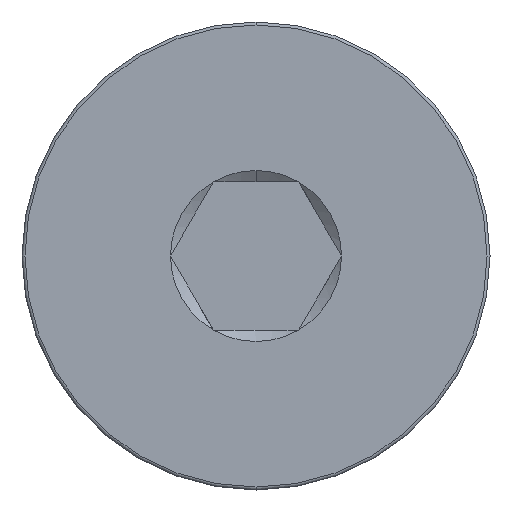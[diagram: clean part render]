
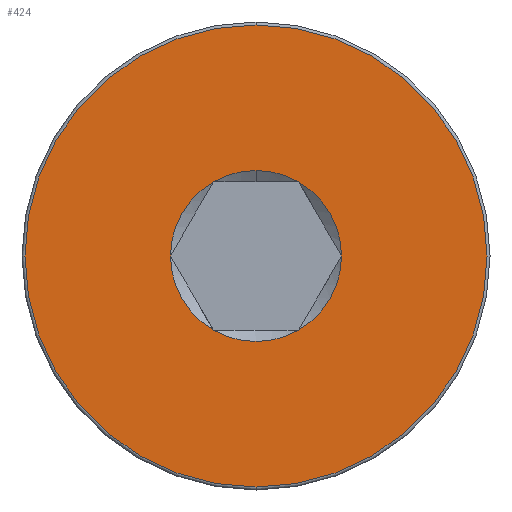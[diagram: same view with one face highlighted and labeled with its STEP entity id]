
A CAD part, left-side view. The second image highlights one B-rep face of the part: STEP entity #424.
In plain terms, the highlighted planar face has unit normal (-1, 0, 0).
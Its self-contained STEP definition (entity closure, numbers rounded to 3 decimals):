
#16 = DIRECTION ( 'NONE',  ( 0., 0., 1. ) ) ;
#33 = EDGE_CURVE ( 'NONE', #736, #753, #790, .T. ) ;
#35 = CARTESIAN_POINT ( 'NONE',  ( 0., 0., 0. ) ) ;
#45 = DIRECTION ( 'NONE',  ( 0., 0., -1. ) ) ;
#46 = CIRCLE ( 'NONE', #149, 2.887 ) ;
#47 = DIRECTION ( 'NONE',  ( 1., 0., 0. ) ) ;
#52 = VERTEX_POINT ( 'NONE', #670 ) ;
#53 = CARTESIAN_POINT ( 'NONE',  ( 0., 0., 7.8 ) ) ;
#57 = CIRCLE ( 'NONE', #510, 2.887 ) ;
#58 = EDGE_CURVE ( 'NONE', #52, #528, #246, .T. ) ;
#78 = ORIENTED_EDGE ( 'NONE', *, *, #173, .T. ) ;
#79 = CARTESIAN_POINT ( 'NONE',  ( 0., -1.443, 2.5 ) ) ;
#88 = CARTESIAN_POINT ( 'NONE',  ( 0., 0., 0. ) ) ;
#95 = CARTESIAN_POINT ( 'NONE',  ( 0., 0., 2.887 ) ) ;
#116 = CARTESIAN_POINT ( 'NONE',  ( 0., 0., 0. ) ) ;
#123 = ORIENTED_EDGE ( 'NONE', *, *, #388, .T. ) ;
#125 = CIRCLE ( 'NONE', #717, 2.887 ) ;
#141 = CARTESIAN_POINT ( 'NONE',  ( 0., -1.443, -2.5 ) ) ;
#149 = AXIS2_PLACEMENT_3D ( 'NONE', #357, #172, #45 ) ;
#150 = ORIENTED_EDGE ( 'NONE', *, *, #473, .T. ) ;
#171 = CARTESIAN_POINT ( 'NONE',  ( 0., -2.887, 0. ) ) ;
#172 = DIRECTION ( 'NONE',  ( 1., 0., 0. ) ) ;
#173 = EDGE_CURVE ( 'NONE', #753, #736, #625, .T. ) ;
#193 = VERTEX_POINT ( 'NONE', #171 ) ;
#201 = DIRECTION ( 'NONE',  ( 0., 0., -1. ) ) ;
#202 = ORIENTED_EDGE ( 'NONE', *, *, #684, .T. ) ;
#215 = VERTEX_POINT ( 'NONE', #430 ) ;
#219 = CARTESIAN_POINT ( 'NONE',  ( 0., 0., 0. ) ) ;
#221 = CIRCLE ( 'NONE', #316, 2.887 ) ;
#224 = CARTESIAN_POINT ( 'NONE',  ( 0., 0., 0. ) ) ;
#231 = DIRECTION ( 'NONE',  ( 1., 0., 0. ) ) ;
#238 = DIRECTION ( 'NONE',  ( 1., 0., 0. ) ) ;
#246 = CIRCLE ( 'NONE', #715, 2.887 ) ;
#249 = CARTESIAN_POINT ( 'NONE',  ( 0., 0., 0. ) ) ;
#273 = FACE_OUTER_BOUND ( 'NONE', #771, .T. ) ;
#283 = EDGE_CURVE ( 'NONE', #432, #52, #324, .T. ) ;
#316 = AXIS2_PLACEMENT_3D ( 'NONE', #364, #231, #671 ) ;
#321 = DIRECTION ( 'NONE',  ( 1., 0., 0. ) ) ;
#324 = CIRCLE ( 'NONE', #652, 2.887 ) ;
#325 = DIRECTION ( 'NONE',  ( 1., 0., 0. ) ) ;
#357 = CARTESIAN_POINT ( 'NONE',  ( 0., 0., 0. ) ) ;
#360 = VERTEX_POINT ( 'NONE', #95 ) ;
#364 = CARTESIAN_POINT ( 'NONE',  ( 0., 0., 0. ) ) ;
#388 = EDGE_CURVE ( 'NONE', #528, #215, #57, .T. ) ;
#393 = FACE_BOUND ( 'NONE', #395, .T. ) ;
#395 = EDGE_LOOP ( 'NONE', ( #123, #543, #150, #740, #202, #637, #799 ) ) ;
#401 = DIRECTION ( 'NONE',  ( 0., 0., 1. ) ) ;
#413 = DIRECTION ( 'NONE',  ( 0., 0., -1. ) ) ;
#424 = ADVANCED_FACE ( 'NONE', ( #393, #273 ), #572, .T. ) ;
#430 = CARTESIAN_POINT ( 'NONE',  ( 0., 1.443, 2.5 ) ) ;
#432 = VERTEX_POINT ( 'NONE', #141 ) ;
#459 = CIRCLE ( 'NONE', #653, 2.887 ) ;
#464 = DIRECTION ( 'NONE',  ( -1., 0., 0. ) ) ;
#471 = DIRECTION ( 'NONE',  ( 0., 0., 1. ) ) ;
#473 = EDGE_CURVE ( 'NONE', #360, #619, #125, .T. ) ;
#474 = CARTESIAN_POINT ( 'NONE',  ( 0., 0., -7.8 ) ) ;
#483 = AXIS2_PLACEMENT_3D ( 'NONE', #219, #485, #471 ) ;
#485 = DIRECTION ( 'NONE',  ( -1., 0., 0. ) ) ;
#499 = DIRECTION ( 'NONE',  ( 0., 0., -1. ) ) ;
#510 = AXIS2_PLACEMENT_3D ( 'NONE', #88, #325, #581 ) ;
#514 = CARTESIAN_POINT ( 'NONE',  ( 0., 0., 0. ) ) ;
#524 = CARTESIAN_POINT ( 'NONE',  ( 0., 0., 0. ) ) ;
#528 = VERTEX_POINT ( 'NONE', #713 ) ;
#543 = ORIENTED_EDGE ( 'NONE', *, *, #755, .T. ) ;
#549 = AXIS2_PLACEMENT_3D ( 'NONE', #35, #657, #16 ) ;
#562 = AXIS2_PLACEMENT_3D ( 'NONE', #524, #464, #401 ) ;
#568 = EDGE_CURVE ( 'NONE', #619, #193, #459, .T. ) ;
#572 = PLANE ( 'NONE',  #562 ) ;
#581 = DIRECTION ( 'NONE',  ( 0., 0., -1. ) ) ;
#595 = DIRECTION ( 'NONE',  ( 0., 0., -1. ) ) ;
#619 = VERTEX_POINT ( 'NONE', #79 ) ;
#622 = ORIENTED_EDGE ( 'NONE', *, *, #33, .T. ) ;
#625 = CIRCLE ( 'NONE', #483, 7.8 ) ;
#637 = ORIENTED_EDGE ( 'NONE', *, *, #283, .T. ) ;
#652 = AXIS2_PLACEMENT_3D ( 'NONE', #249, #238, #499 ) ;
#653 = AXIS2_PLACEMENT_3D ( 'NONE', #224, #47, #413 ) ;
#657 = DIRECTION ( 'NONE',  ( -1., 0., 0. ) ) ;
#664 = DIRECTION ( 'NONE',  ( 1., 0., 0. ) ) ;
#670 = CARTESIAN_POINT ( 'NONE',  ( 0., 1.443, -2.5 ) ) ;
#671 = DIRECTION ( 'NONE',  ( 0., 0., -1. ) ) ;
#684 = EDGE_CURVE ( 'NONE', #193, #432, #46, .T. ) ;
#713 = CARTESIAN_POINT ( 'NONE',  ( 0., 2.887, 0. ) ) ;
#715 = AXIS2_PLACEMENT_3D ( 'NONE', #116, #664, #595 ) ;
#717 = AXIS2_PLACEMENT_3D ( 'NONE', #514, #321, #201 ) ;
#736 = VERTEX_POINT ( 'NONE', #53 ) ;
#740 = ORIENTED_EDGE ( 'NONE', *, *, #568, .T. ) ;
#753 = VERTEX_POINT ( 'NONE', #474 ) ;
#755 = EDGE_CURVE ( 'NONE', #215, #360, #221, .T. ) ;
#771 = EDGE_LOOP ( 'NONE', ( #622, #78 ) ) ;
#790 = CIRCLE ( 'NONE', #549, 7.8 ) ;
#799 = ORIENTED_EDGE ( 'NONE', *, *, #58, .T. ) ;
